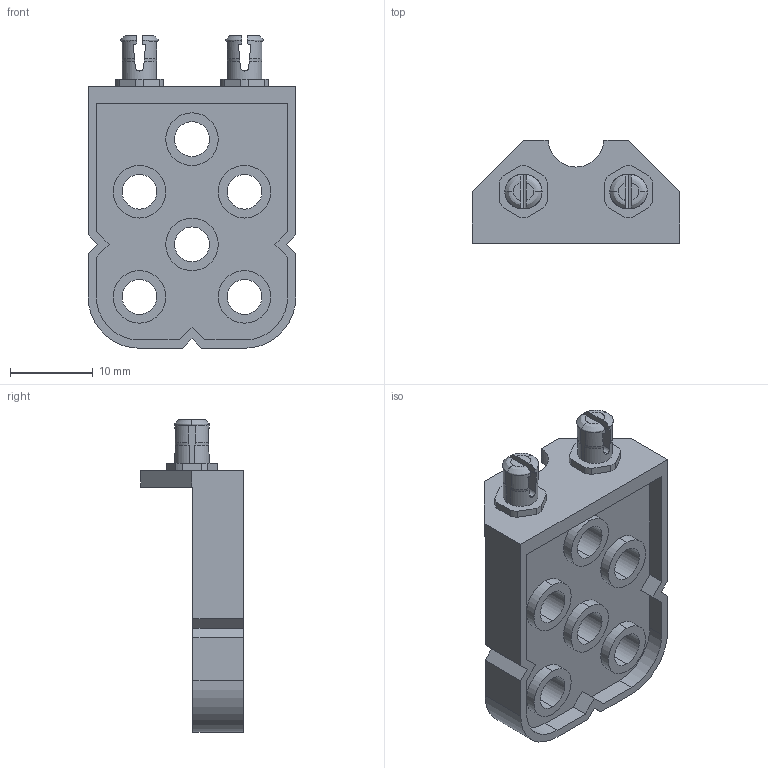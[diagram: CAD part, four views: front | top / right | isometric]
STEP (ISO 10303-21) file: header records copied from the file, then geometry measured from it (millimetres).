
FILE_DESCRIPTION (( 'STEP AP214' ), '1' );
FILE_NAME ('228-2500-2296.STEP', '2021-02-18T20:40:52', ( '' ), ( '' ), 'SwSTEP 2.0', 'SolidWorks 2019', '' );
FILE_SCHEMA (( 'AUTOMOTIVE_DESIGN' ));
Length unit declared in the file: millimetre
Products named in the file (1): 228-2500-2296
Bounding box: 25.1 x 12.43 x 37.74 mm (x, y, z)
Volume: 2555.3 mm3; surface area: 3595.1 mm2
Topology: 1 solids, 1 shells, 200 faces, 535 edges, 354 vertices
Faces by surface type: plane 97, cylinder 79, bspline 16, cone 8
Entity records: 16219 total; most frequent: CARTESIAN_POINT 11294, ORIENTED_EDGE 1070, DIRECTION 947, EDGE_CURVE 535, VERTEX_POINT 354, AXIS2_PLACEMENT_3D 331, VECTOR 285, LINE 285
